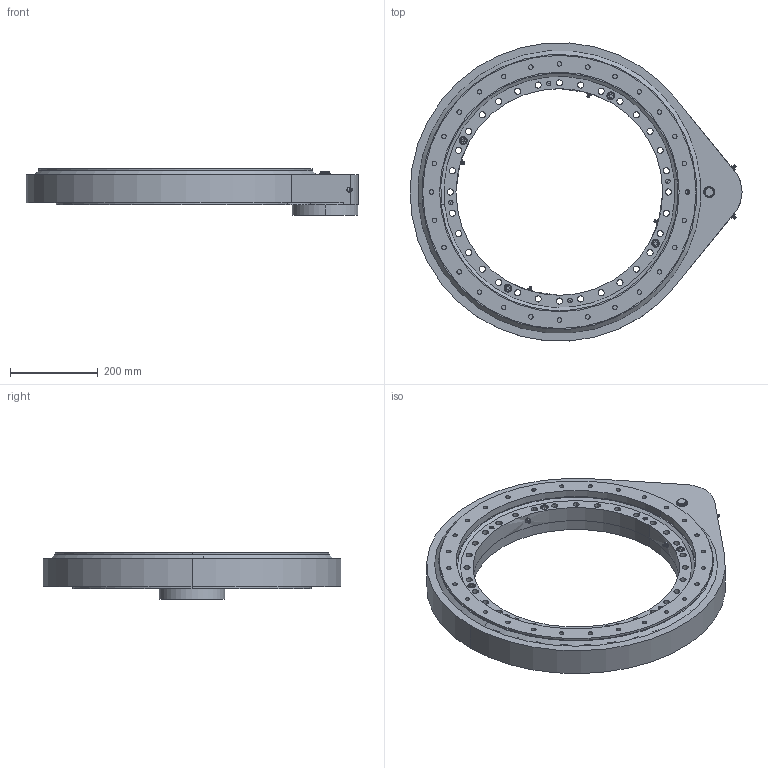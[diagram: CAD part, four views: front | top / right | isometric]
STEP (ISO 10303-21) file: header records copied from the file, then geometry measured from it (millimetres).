
FILE_DESCRIPTION (( 'STEP AP214' ), '1' );
FILE_NAME ('10541.STEP', '2023-03-16T06:56:55', ( '' ), ( '' ), 'SwSTEP 2.0', 'SolidWorks 2021', '' );
FILE_SCHEMA (( 'AUTOMOTIVE_DESIGN' ));
Length unit declared in the file: millimetre
Products named in the file (1): 10541
Bounding box: 758 x 680.31 x 106.5 mm (x, y, z)
Surface area: 1023159.8 mm2 (no closed solid volume)
Topology: 0 solids, 44 shells, 547 faces, 1615 edges, 1089 vertices
Faces by surface type: cylinder 280, plane 163, torus 52, cone 36, sphere 16
Entity records: 25169 total; most frequent: DIRECTION 3596, CARTESIAN_POINT 3551, ORIENTED_EDGE 2763, EDGE_CURVE 1609, AXIS2_PLACEMENT_3D 1450, VERTEX_POINT 1089, CIRCLE 902, EDGE_LOOP 814
